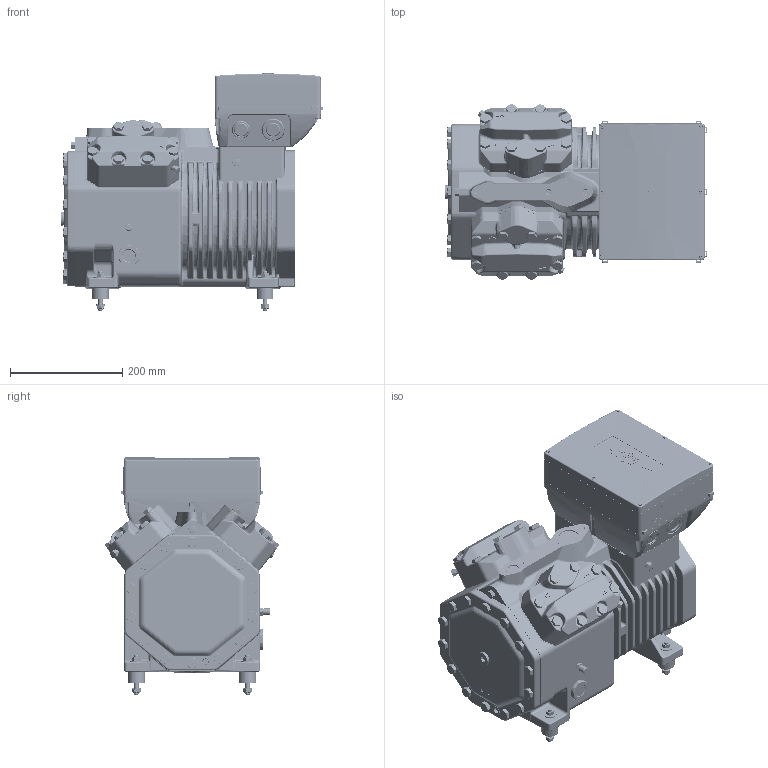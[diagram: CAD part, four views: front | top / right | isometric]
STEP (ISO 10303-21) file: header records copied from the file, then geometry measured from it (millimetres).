
FILE_DESCRIPTION(/* description */ (''),/* implementation_level */ '2;1');
FILE_NAME(/* name */ '4FSL-4ESL-4DSL-4CSL-STANDARD.stp',/* time_stamp */ '2023-12-08T14:42:06+01:00',/* author */ (''),/* organization */ (''),/* preprocessor_version */ 'ST-DEVELOPER v19.3',/* originating_system */ 'SIEMENS PLM Software NX2212.3001',/* authorisation */ '');
FILE_SCHEMA (('AUTOMOTIVE_DESIGN { 1 0 10303 214 3 1 1 1 }'));
Products named in the file (6): DAMPER-ELEMENT-CE3; 4FSL-4ESL-4DSL-4CSL-BODY; TERMINAL-BOX-CE3-CM-RC-02; ELECTRICAL-TERMINAL-BOX-C3; BEARING-CAP-W-SEALING-SCREW; 4FSL-4ESL-4DSL-4CSL-STANDARD
Assembly tree (5 placements, depth 2):
  4FSL-4ESL-4DSL-4CSL-STANDARD
    BEARING-CAP-W-SEALING-SCREW
    ELECTRICAL-TERMINAL-BOX-C3
    TERMINAL-BOX-CE3-CM-RC-02
    4FSL-4ESL-4DSL-4CSL-BODY
    DAMPER-ELEMENT-CE3
Bounding box: 466.43 x 311.83 x 422.1 mm (x, y, z)
Volume: 30104925.6 mm3; surface area: 1131233.8 mm2
Topology: 8 solids, 27 shells, 5899 faces, 14527 edges, 8943 vertices
Faces by surface type: plane 1970, bspline 1880, cylinder 1060, cone 582, torus 204, extrusion 137, sphere 66
Full cylindrical faces by diameter (mm): 3 x4, 4 x6, 5 x4, 5.795 x4, 6 x2, 8 x16, 8.4 x4, 8.5 x12, 10 x15, 10.287 x1, 10.29 x4, 12 x1, 13 x4, 16 x1, 17 x2, 18.5 x1, 23.9 x1, 24 x4, 25 x2, 30 x4, 34 x1, 36 x4, 40 x1, 189.9 x1
Entity records: 216134 total; most frequent: CARTESIAN_POINT 87016, ORIENTED_EDGE 27900, DIRECTION 21133, EDGE_CURVE 13950, VERTEX_POINT 8805, AXIS2_PLACEMENT_3D 8153, EDGE_LOOP 6623, ADVANCED_FACE 5899
